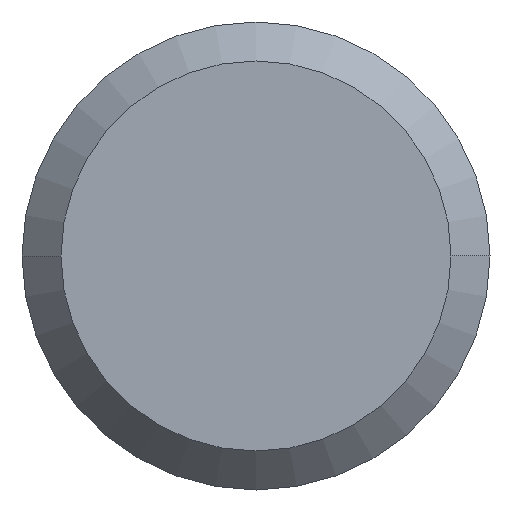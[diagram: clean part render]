
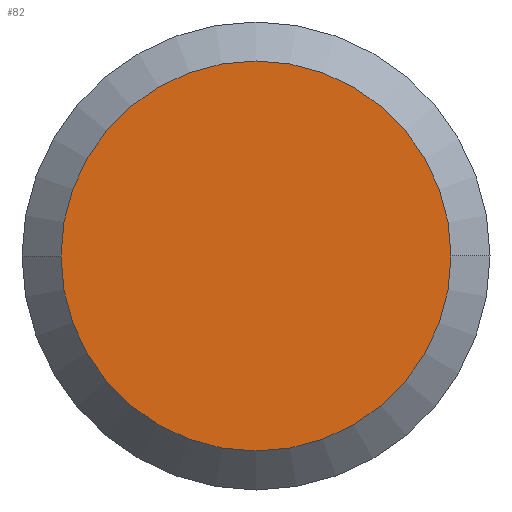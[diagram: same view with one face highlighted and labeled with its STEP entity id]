
A CAD part, front view. The second image highlights one B-rep face of the part: STEP entity #82.
In plain terms, the highlighted planar face has unit normal (0, -1, 0).
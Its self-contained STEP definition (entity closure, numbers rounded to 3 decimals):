
#82 = ADVANCED_FACE( '', ( #98 ), #99, .T. );
#98 = FACE_OUTER_BOUND( '', #114, .T. );
#99 = PLANE( '', #115 );
#114 = EDGE_LOOP( '', ( #163, #164 ) );
#115 = AXIS2_PLACEMENT_3D( '', #165, #166, #167 );
#163 = ORIENTED_EDGE( '', *, *, #171, .T. );
#164 = ORIENTED_EDGE( '', *, *, #181, .T. );
#165 = CARTESIAN_POINT( '', ( -2.5, -23.8, 0. ) );
#166 = DIRECTION( '', ( 0., -1., 0. ) );
#167 = DIRECTION( '', ( -1., 0., 0. ) );
#171 = EDGE_CURVE( '', #183, #187, #189, .T. );
#181 = EDGE_CURVE( '', #187, #183, #203, .T. );
#183 = VERTEX_POINT( '', #205 );
#187 = VERTEX_POINT( '', #210 );
#189 = CIRCLE( '', #213, 5. );
#203 = CIRCLE( '', #231, 5. );
#205 = CARTESIAN_POINT( '', ( -5., -23.8, 0. ) );
#210 = CARTESIAN_POINT( '', ( 5., -23.8, 0. ) );
#213 = AXIS2_PLACEMENT_3D( '', #237, #238, #239 );
#231 = AXIS2_PLACEMENT_3D( '', #259, #260, #261 );
#237 = CARTESIAN_POINT( '', ( 0., -23.8, 0. ) );
#238 = DIRECTION( '', ( 0., -1., 0. ) );
#239 = DIRECTION( '', ( -1., 0., 0. ) );
#259 = CARTESIAN_POINT( '', ( 0., -23.8, 0. ) );
#260 = DIRECTION( '', ( 0., -1., 0. ) );
#261 = DIRECTION( '', ( -1., 0., 0. ) );
